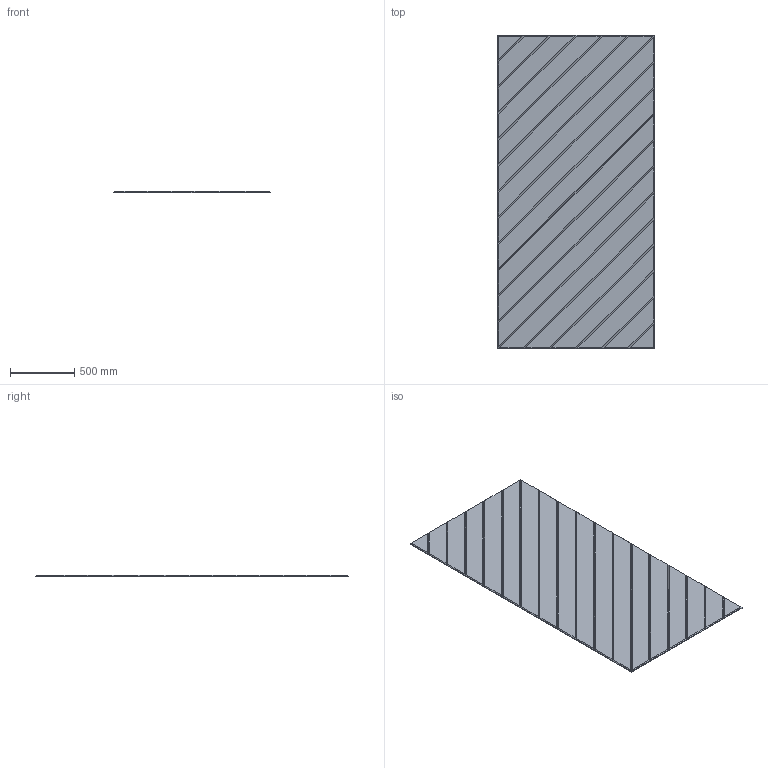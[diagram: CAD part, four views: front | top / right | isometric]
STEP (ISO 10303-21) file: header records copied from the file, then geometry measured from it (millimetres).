
FILE_DESCRIPTION(/* description */ (''),/* implementation_level */ '2;1');
FILE_NAME(/* name */ 'Y:\Design and Engineering\MaterialLogiq\CAD ASSETS\MASTER\PET ENGRAVED\WEB ASSETS\Uphill Dense.stp',/* time_stamp */ '2024-08-26T10:11:30-05:00',/* author */ ('Grant Baker'),/* organization */ (''),/* preprocessor_version */ 'ST-DEVELOPER v19',/* originating_system */ 'Autodesk Inventor 2023',/* authorisation */ '');
FILE_SCHEMA (('AUTOMOTIVE_DESIGN { 1 0 10303 214 3 1 1 }'));
Length unit declared in the file: inch
Products named in the file (1): Uphill Dense
Bounding box: 1219.2 x 2438.4 x 12.7 mm (x, y, z)
Volume: 36782738.6 mm3; surface area: 6118623.2 mm2
Topology: 1 solids, 1 shells, 93 faces, 201 edges, 110 vertices
Faces by surface type: plane 93
Entity records: 2424 total; most frequent: CARTESIAN_POINT 405, ORIENTED_EDGE 402, DIRECTION 389, LINE 201, VECTOR 201, EDGE_CURVE 201, VERTEX_POINT 110, AXIS2_PLACEMENT_3D 94
